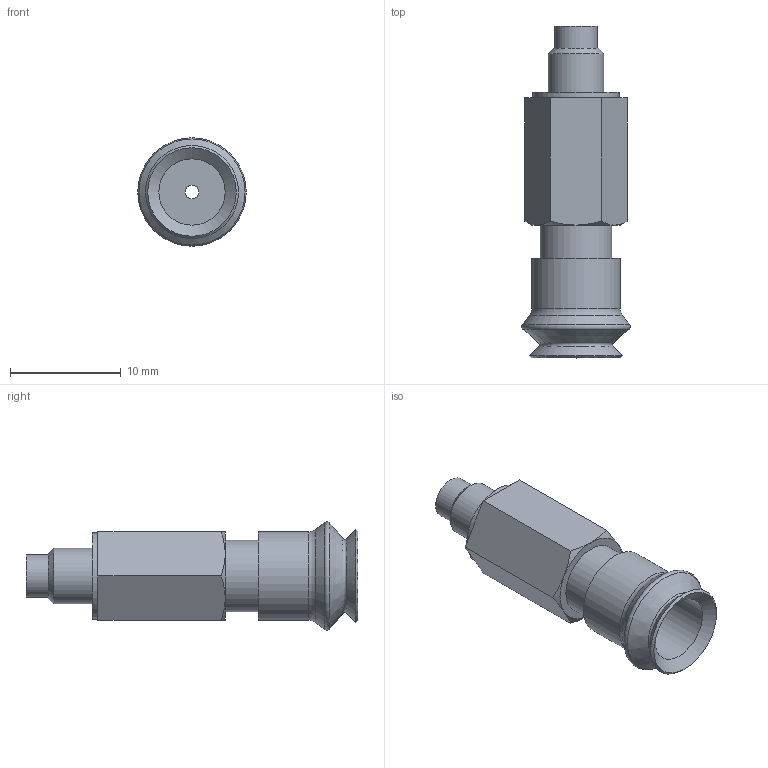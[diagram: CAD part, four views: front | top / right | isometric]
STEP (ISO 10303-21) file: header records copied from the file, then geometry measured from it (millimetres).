
FILE_DESCRIPTION(('STEP AP203'),'1');
FILE_NAME('.stp','2025-04-23T03:29:32',(' '),(' '),'Spatial InterOp 3D',' ',' ');
FILE_SCHEMA(('CONFIG_CONTROL_DESIGN'));
Length unit declared in the file: millimetre
Products named in the file (4): BPSS-L3-BPJG-8-※; BPSS-7-L3-M; BPSS-7-L3-F; BPJG-8-※
Assembly tree (3 placements, depth 2):
  BPSS-L3-BPJG-8-※
    BPSS-7-L3-M
    BPSS-7-L3-F
    BPJG-8-※
Bounding box: 9.8 x 30 x 9.8 mm (x, y, z)
Volume: 1054 mm3; surface area: 1741.3 mm2
Topology: 3 solids, 3 shells, 52 faces, 99 edges, 61 vertices
Faces by surface type: plane 20, cylinder 14, cone 12, torus 6
Full cylindrical faces by diameter (mm): 1.2 x1, 2.4 x2, 3.4 x1, 3.8 x1, 4 x2, 5 x1, 6 x2, 6.5 x2, 7.8 x1, 8 x1
Entity records: 1354 total; most frequent: DIRECTION 214, CARTESIAN_POINT 206, ORIENTED_EDGE 138, AXIS2_PLACEMENT_3D 101, EDGE_LOOP 92, FACE_OUTER_BOUND 72, EDGE_CURVE 69, VERTEX_POINT 57
